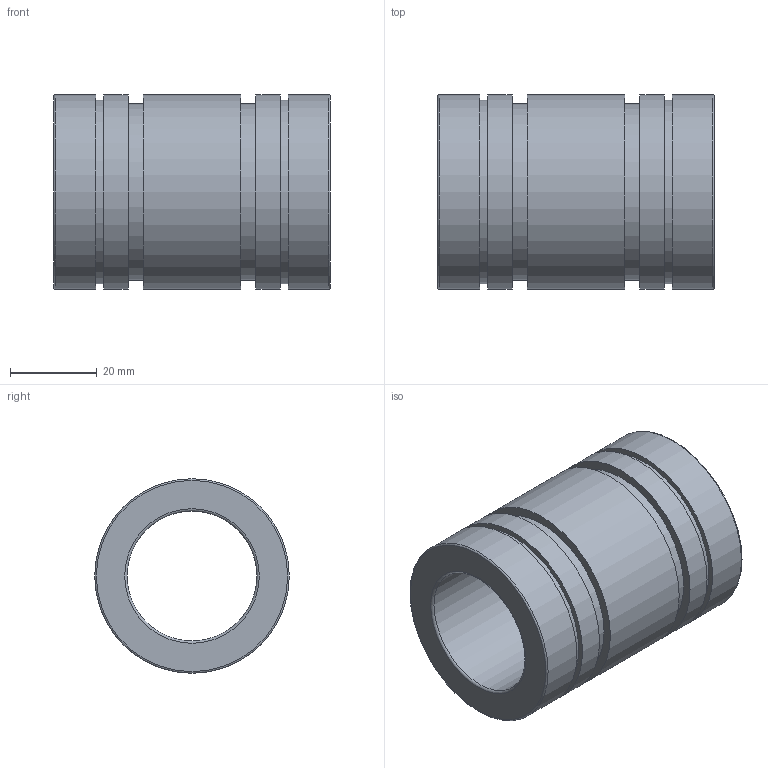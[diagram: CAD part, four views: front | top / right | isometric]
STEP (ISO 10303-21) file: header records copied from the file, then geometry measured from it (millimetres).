
FILE_DESCRIPTION(('STEP AP203'),'1');
FILE_NAME('//192.168.1.1/share/s-4 技術開発/s-4-4_CAD/s-4-4-3_見直し済み/PBC LINEAR修正済み/3D途中/FJ/FJ30.step','2022-03-24T06:57:09',(' '),(' '),'Spatial InterOp 3D',' ',' ');
FILE_SCHEMA(('CONFIG_CONTROL_DESIGN'));
Length unit declared in the file: millimetre
Products named in the file (1): 1
Bounding box: 64 x 45 x 45 mm (x, y, z)
Volume: 53898.2 mm3; surface area: 18441.9 mm2
Topology: 1 solids, 1 shells, 24 faces, 38 edges, 24 vertices
Faces by surface type: cylinder 10, plane 10, torus 4
Full cylindrical faces by diameter (mm): 30 x1, 40.843 x2, 42.5 x2, 45 x5
Entity records: 532 total; most frequent: DIRECTION 98, CARTESIAN_POINT 73, AXIS2_PLACEMENT_3D 49, EDGE_LOOP 48, ORIENTED_EDGE 48, FACE_OUTER_BOUND 38, ADVANCED_FACE 24, EDGE_CURVE 24
